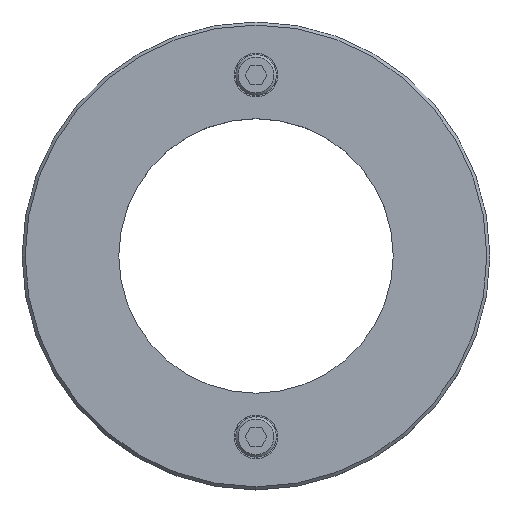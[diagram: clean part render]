
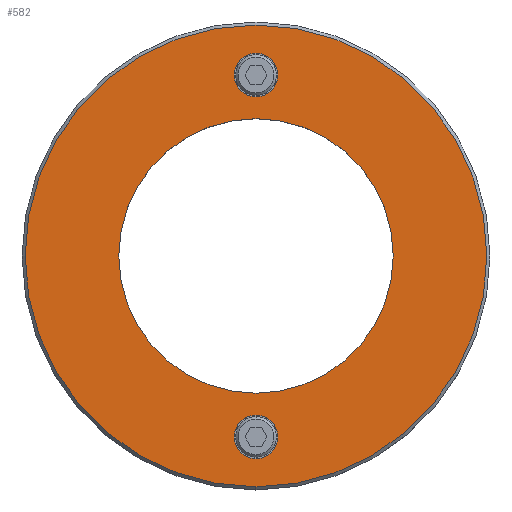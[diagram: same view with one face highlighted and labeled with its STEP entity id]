
A CAD part, top view. The second image highlights one B-rep face of the part: STEP entity #582.
In plain terms, the highlighted planar face has unit normal (0, 0, 1).
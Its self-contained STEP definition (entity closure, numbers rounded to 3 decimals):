
#105=VERTEX_POINT(' ',#106);
#106=CARTESIAN_POINT('',(0.,44.,20.));
#107=VERTEX_POINT(' ',#108);
#108=CARTESIAN_POINT('',(0.,-44.,20.));
#117=VERTEX_POINT(' ',#118);
#118=CARTESIAN_POINT('',(0.,65.,20.));
#119=VERTEX_POINT(' ',#120);
#120=CARTESIAN_POINT('',(0.,51.,20.));
#125=VERTEX_POINT(' ',#126);
#126=CARTESIAN_POINT('',(0.,-51.,20.));
#127=VERTEX_POINT(' ',#128);
#128=CARTESIAN_POINT('',(0.,-65.,20.));
#137=VERTEX_POINT(' ',#138);
#138=CARTESIAN_POINT('',(0.,-74.01,20.));
#139=VERTEX_POINT(' ',#140);
#140=CARTESIAN_POINT('',(0.,74.01,20.));
#199=CIRCLE('',#200,44.);
#200=AXIS2_PLACEMENT_3D('',#201,#202,#203);
#201=CARTESIAN_POINT('',(0.,0.,20.));
#202=DIRECTION('',(0.,0.,-1.));
#203=DIRECTION('',(-1.,0.,0.));
#204=EDGE_CURVE(' ',#105,#107,#199,.T.);
#205=CIRCLE('',#206,44.);
#206=AXIS2_PLACEMENT_3D('',#207,#208,#209);
#207=CARTESIAN_POINT('',(0.,0.,20.));
#208=DIRECTION('',(0.,0.,-1.));
#209=DIRECTION('',(1.,0.,0.));
#210=EDGE_CURVE(' ',#107,#105,#205,.T.);
#255=CIRCLE('',#256,7.);
#256=AXIS2_PLACEMENT_3D('',#257,#258,#259);
#257=CARTESIAN_POINT('',(0.,58.,20.));
#258=DIRECTION('',(0.,0.,1.));
#259=DIRECTION('',(1.,0.,0.));
#260=EDGE_CURVE(' ',#117,#119,#255,.T.);
#277=CIRCLE('',#278,7.);
#278=AXIS2_PLACEMENT_3D('',#279,#280,#281);
#279=CARTESIAN_POINT('',(0.,58.,20.));
#280=DIRECTION('',(0.,0.,1.));
#281=DIRECTION('',(-1.,0.,0.));
#282=EDGE_CURVE(' ',#119,#117,#277,.T.);
#289=CIRCLE('',#290,7.);
#290=AXIS2_PLACEMENT_3D('',#291,#292,#293);
#291=CARTESIAN_POINT('',(0.,-58.,20.));
#292=DIRECTION('',(0.,0.,1.));
#293=DIRECTION('',(1.,0.,0.));
#294=EDGE_CURVE(' ',#125,#127,#289,.T.);
#311=CIRCLE('',#312,7.);
#312=AXIS2_PLACEMENT_3D('',#313,#314,#315);
#313=CARTESIAN_POINT('',(0.,-58.,20.));
#314=DIRECTION('',(0.,0.,1.));
#315=DIRECTION('',(-1.,0.,0.));
#316=EDGE_CURVE(' ',#127,#125,#311,.T.);
#345=CIRCLE('',#346,74.01);
#346=AXIS2_PLACEMENT_3D('',#347,#348,#349);
#347=CARTESIAN_POINT('',(0.,0.,20.));
#348=DIRECTION('',(0.,0.,1.));
#349=DIRECTION('',(-1.,0.,0.));
#350=EDGE_CURVE(' ',#139,#137,#345,.F.);
#351=CIRCLE('',#352,74.01);
#352=AXIS2_PLACEMENT_3D('',#353,#354,#355);
#353=CARTESIAN_POINT('',(0.,0.,20.));
#354=DIRECTION('',(0.,0.,1.));
#355=DIRECTION('',(1.,0.,0.));
#356=EDGE_CURVE(' ',#137,#139,#351,.F.);
#561=ORIENTED_EDGE('',*,*,#350,.F.);
#562=ORIENTED_EDGE('',*,*,#356,.F.);
#563=EDGE_LOOP('',(#561,#562));
#564=FACE_OUTER_BOUND('',#563,.T.);
#565=ORIENTED_EDGE('',*,*,#316,.F.);
#566=ORIENTED_EDGE('',*,*,#294,.F.);
#567=EDGE_LOOP('',(#565,#566));
#568=FACE_BOUND('',#567,.T.);
#569=ORIENTED_EDGE('',*,*,#282,.F.);
#570=ORIENTED_EDGE('',*,*,#260,.F.);
#571=EDGE_LOOP('',(#569,#570));
#572=FACE_BOUND('',#571,.T.);
#573=ORIENTED_EDGE('',*,*,#204,.T.);
#574=ORIENTED_EDGE('',*,*,#210,.T.);
#575=EDGE_LOOP('',(#573,#574));
#576=FACE_BOUND('',#575,.T.);
#577=PLANE('',#578);
#578=AXIS2_PLACEMENT_3D('',#579,#580,#581);
#579=CARTESIAN_POINT('',(75.,0.,20.));
#580=DIRECTION('',(0.,0.,1.));
#581=DIRECTION('',(0.,1.,0.));
#582=ADVANCED_FACE('',(#564,#568,#572,#576),#577,.T.);
